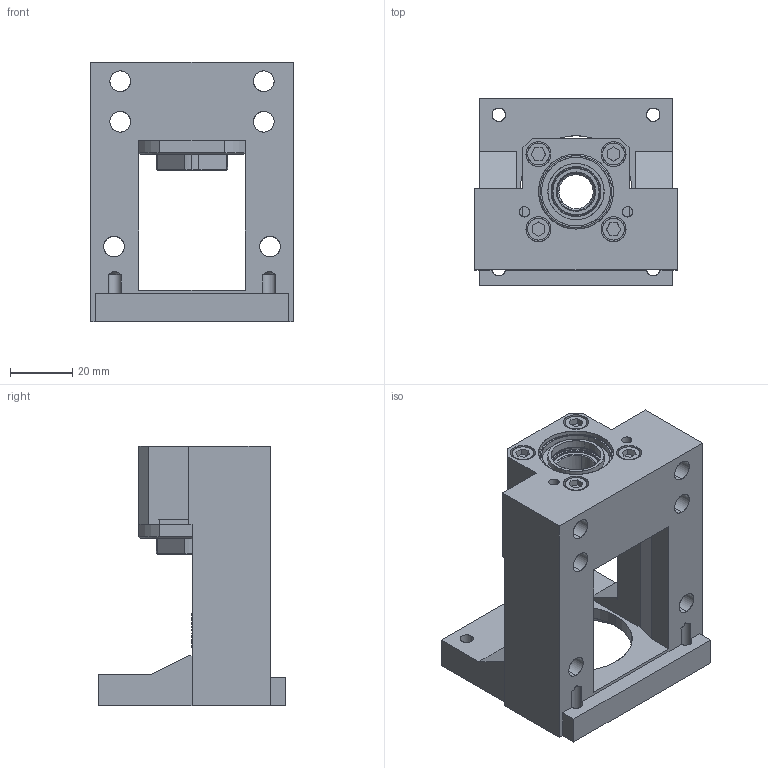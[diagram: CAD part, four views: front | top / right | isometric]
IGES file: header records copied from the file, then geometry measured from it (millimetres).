
Start section: SolidWorks IGES file using analytic representation for surfaces
Global section: file name: C:\Users\117\Desktop\1061208網站3D圖檔問題處理\傳動座\整合型\MBCB\MBCB12-D.IGS,15HSolidWorks; native system: 2017; preprocessor: SolidWorks 2017; author: 117; date: 171228.145549; units: millimetre
Bounding box: 65 x 60 x 83 mm (x, y, z)
Surface area: 34981.4 mm2 (no closed solid volume)
Topology: 0 solids, 0 shells, 253 faces, 3556 edges, 3536 vertices
Faces by surface type: revolution 136, bspline 117
